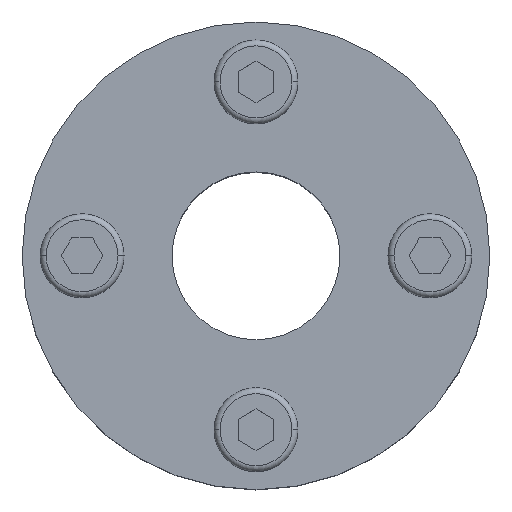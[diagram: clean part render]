
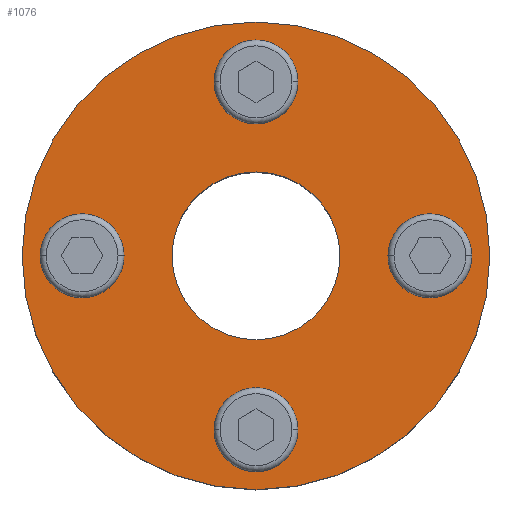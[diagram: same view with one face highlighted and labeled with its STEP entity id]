
A CAD part, top view. The second image highlights one B-rep face of the part: STEP entity #1076.
In plain terms, the highlighted planar face has unit normal (0, 0, 1).
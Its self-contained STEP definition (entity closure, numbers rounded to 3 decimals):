
#37 = FACE_BOUND ( 'NONE', #364, .T. ) ;
#40 = CARTESIAN_POINT ( 'NONE',  ( 0., 14.5, 0. ) ) ;
#92 = EDGE_LOOP ( 'NONE', ( #1160, #417 ) ) ;
#101 = CARTESIAN_POINT ( 'NONE',  ( -7., 0., 0. ) ) ;
#104 = DIRECTION ( 'NONE',  ( 0., 0., 1. ) ) ;
#126 = EDGE_LOOP ( 'NONE', ( #934, #1118 ) ) ;
#131 = EDGE_CURVE ( 'NONE', #759, #150, #1322, .T. ) ;
#140 = AXIS2_PLACEMENT_3D ( 'NONE', #1528, #340, #1248 ) ;
#143 = CARTESIAN_POINT ( 'NONE',  ( 14.5, 0., 0. ) ) ;
#150 = VERTEX_POINT ( 'NONE', #431 ) ;
#210 = CARTESIAN_POINT ( 'NONE',  ( 0., 0., 0. ) ) ;
#227 = EDGE_CURVE ( 'NONE', #788, #1362, #619, .T. ) ;
#254 = VERTEX_POINT ( 'NONE', #1378 ) ;
#303 = EDGE_CURVE ( 'NONE', #1422, #254, #456, .T. ) ;
#317 = DIRECTION ( 'NONE',  ( 0., 0., 1. ) ) ;
#323 = EDGE_CURVE ( 'NONE', #881, #728, #628, .T. ) ;
#340 = DIRECTION ( 'NONE',  ( 0., 0., 1. ) ) ;
#361 = AXIS2_PLACEMENT_3D ( 'NONE', #1463, #1317, #952 ) ;
#364 = EDGE_LOOP ( 'NONE', ( #1662, #1446 ) ) ;
#369 = DIRECTION ( 'NONE',  ( 0., 0., 1. ) ) ;
#401 = AXIS2_PLACEMENT_3D ( 'NONE', #1530, #104, #891 ) ;
#413 = FACE_BOUND ( 'NONE', #451, .T. ) ;
#417 = ORIENTED_EDGE ( 'NONE', *, *, #918, .T. ) ;
#425 = CARTESIAN_POINT ( 'NONE',  ( -18., 0., 0. ) ) ;
#430 = CARTESIAN_POINT ( 'NONE',  ( 0., 0., 0. ) ) ;
#431 = CARTESIAN_POINT ( 'NONE',  ( -3.5, -14.5, 0. ) ) ;
#451 = EDGE_LOOP ( 'NONE', ( #705, #656 ) ) ;
#454 = ORIENTED_EDGE ( 'NONE', *, *, #131, .F. ) ;
#456 = CIRCLE ( 'NONE', #1054, 3.5 ) ;
#459 = EDGE_CURVE ( 'NONE', #728, #881, #763, .T. ) ;
#461 = ORIENTED_EDGE ( 'NONE', *, *, #1547, .F. ) ;
#487 = AXIS2_PLACEMENT_3D ( 'NONE', #570, #1483, #1349 ) ;
#488 = EDGE_CURVE ( 'NONE', #1108, #1374, #824, .T. ) ;
#490 = CARTESIAN_POINT ( 'NONE',  ( -7., 0., 0. ) ) ;
#497 = CIRCLE ( 'NONE', #1186, 19.5 ) ;
#532 = CARTESIAN_POINT ( 'NONE',  ( -14.5, 0., 0. ) ) ;
#543 = PLANE ( 'NONE',  #1035 ) ;
#550 = CARTESIAN_POINT ( 'NONE',  ( 7., 0., 0. ) ) ;
#556 = VERTEX_POINT ( 'NONE', #1421 ) ;
#570 = CARTESIAN_POINT ( 'NONE',  ( 0., -14.5, 0. ) ) ;
#606 = EDGE_CURVE ( 'NONE', #1374, #1108, #1129, .T. ) ;
#619 = CIRCLE ( 'NONE', #1391, 7. ) ;
#628 = CIRCLE ( 'NONE', #872, 3.5 ) ;
#636 = FACE_OUTER_BOUND ( 'NONE', #92, .T. ) ;
#637 = AXIS2_PLACEMENT_3D ( 'NONE', #779, #1416, #1042 ) ;
#644 = DIRECTION ( 'NONE',  ( 0., 0., 1. ) ) ;
#656 = ORIENTED_EDGE ( 'NONE', *, *, #323, .F. ) ;
#661 = DIRECTION ( 'NONE',  ( 0., 0., -1. ) ) ;
#663 = ORIENTED_EDGE ( 'NONE', *, *, #1313, .F. ) ;
#699 = CIRCLE ( 'NONE', #888, 7. ) ;
#705 = ORIENTED_EDGE ( 'NONE', *, *, #459, .F. ) ;
#715 = DIRECTION ( 'NONE',  ( 0., 0., 1. ) ) ;
#728 = VERTEX_POINT ( 'NONE', #1339 ) ;
#732 = AXIS2_PLACEMENT_3D ( 'NONE', #143, #1064, #1292 ) ;
#759 = VERTEX_POINT ( 'NONE', #962 ) ;
#763 = CIRCLE ( 'NONE', #401, 3.5 ) ;
#777 = CARTESIAN_POINT ( 'NONE',  ( 14.5, 0., 0. ) ) ;
#779 = CARTESIAN_POINT ( 'NONE',  ( 0., -14.5, 0. ) ) ;
#788 = VERTEX_POINT ( 'NONE', #490 ) ;
#804 = FACE_BOUND ( 'NONE', #126, .T. ) ;
#812 = EDGE_CURVE ( 'NONE', #1080, #556, #1234, .T. ) ;
#814 = DIRECTION ( 'NONE',  ( -1., 0., 0. ) ) ;
#824 = CIRCLE ( 'NONE', #1565, 3.5 ) ;
#872 = AXIS2_PLACEMENT_3D ( 'NONE', #40, #1488, #814 ) ;
#881 = VERTEX_POINT ( 'NONE', #1158 ) ;
#888 = AXIS2_PLACEMENT_3D ( 'NONE', #430, #715, #1337 ) ;
#891 = DIRECTION ( 'NONE',  ( -1., 0., 0. ) ) ;
#918 = EDGE_CURVE ( 'NONE', #556, #1080, #497, .T. ) ;
#934 = ORIENTED_EDGE ( 'NONE', *, *, #303, .F. ) ;
#952 = DIRECTION ( 'NONE',  ( -1., 0., 0. ) ) ;
#962 = CARTESIAN_POINT ( 'NONE',  ( 3.5, -14.5, 0. ) ) ;
#990 = FACE_BOUND ( 'NONE', #1301, .T. ) ;
#1027 = FACE_BOUND ( 'NONE', #1431, .T. ) ;
#1035 = AXIS2_PLACEMENT_3D ( 'NONE', #101, #661, #1163 ) ;
#1042 = DIRECTION ( 'NONE',  ( -1., 0., 0. ) ) ;
#1054 = AXIS2_PLACEMENT_3D ( 'NONE', #532, #369, #1453 ) ;
#1064 = DIRECTION ( 'NONE',  ( 0., 0., 1. ) ) ;
#1076 = ADVANCED_FACE ( 'NONE', ( #413, #37, #1027, #804, #990, #636 ), #543, .F. ) ;
#1080 = VERTEX_POINT ( 'NONE', #1629 ) ;
#1108 = VERTEX_POINT ( 'NONE', #1525 ) ;
#1118 = ORIENTED_EDGE ( 'NONE', *, *, #1460, .F. ) ;
#1129 = CIRCLE ( 'NONE', #732, 3.5 ) ;
#1146 = CARTESIAN_POINT ( 'NONE',  ( 0., 0., 0. ) ) ;
#1155 = DIRECTION ( 'NONE',  ( -1., 0., 0. ) ) ;
#1158 = CARTESIAN_POINT ( 'NONE',  ( 3.5, 14.5, 0. ) ) ;
#1160 = ORIENTED_EDGE ( 'NONE', *, *, #812, .T. ) ;
#1163 = DIRECTION ( 'NONE',  ( -1., 0., 0. ) ) ;
#1172 = DIRECTION ( 'NONE',  ( 0., 0., 1. ) ) ;
#1186 = AXIS2_PLACEMENT_3D ( 'NONE', #1146, #1172, #1408 ) ;
#1234 = CIRCLE ( 'NONE', #140, 19.5 ) ;
#1248 = DIRECTION ( 'NONE',  ( 1., 0., 0. ) ) ;
#1292 = DIRECTION ( 'NONE',  ( -1., 0., 0. ) ) ;
#1301 = EDGE_LOOP ( 'NONE', ( #461, #1615 ) ) ;
#1313 = EDGE_CURVE ( 'NONE', #150, #759, #1329, .T. ) ;
#1317 = DIRECTION ( 'NONE',  ( 0., 0., 1. ) ) ;
#1322 = CIRCLE ( 'NONE', #487, 3.5 ) ;
#1329 = CIRCLE ( 'NONE', #637, 3.5 ) ;
#1337 = DIRECTION ( 'NONE',  ( 1., 0., 0. ) ) ;
#1339 = CARTESIAN_POINT ( 'NONE',  ( -3.5, 14.5, 0. ) ) ;
#1349 = DIRECTION ( 'NONE',  ( -1., 0., 0. ) ) ;
#1362 = VERTEX_POINT ( 'NONE', #550 ) ;
#1374 = VERTEX_POINT ( 'NONE', #1573 ) ;
#1378 = CARTESIAN_POINT ( 'NONE',  ( -11., 0., 0. ) ) ;
#1391 = AXIS2_PLACEMENT_3D ( 'NONE', #210, #317, #1643 ) ;
#1408 = DIRECTION ( 'NONE',  ( 1., 0., 0. ) ) ;
#1416 = DIRECTION ( 'NONE',  ( 0., 0., 1. ) ) ;
#1421 = CARTESIAN_POINT ( 'NONE',  ( -19.5, 0., 0. ) ) ;
#1422 = VERTEX_POINT ( 'NONE', #425 ) ;
#1431 = EDGE_LOOP ( 'NONE', ( #663, #454 ) ) ;
#1446 = ORIENTED_EDGE ( 'NONE', *, *, #488, .F. ) ;
#1450 = CIRCLE ( 'NONE', #361, 3.5 ) ;
#1453 = DIRECTION ( 'NONE',  ( -1., 0., 0. ) ) ;
#1460 = EDGE_CURVE ( 'NONE', #254, #1422, #1450, .T. ) ;
#1463 = CARTESIAN_POINT ( 'NONE',  ( -14.5, 0., 0. ) ) ;
#1483 = DIRECTION ( 'NONE',  ( 0., 0., 1. ) ) ;
#1488 = DIRECTION ( 'NONE',  ( 0., 0., 1. ) ) ;
#1525 = CARTESIAN_POINT ( 'NONE',  ( 18., 0., 0. ) ) ;
#1528 = CARTESIAN_POINT ( 'NONE',  ( 0., 0., 0. ) ) ;
#1530 = CARTESIAN_POINT ( 'NONE',  ( 0., 14.5, 0. ) ) ;
#1547 = EDGE_CURVE ( 'NONE', #1362, #788, #699, .T. ) ;
#1565 = AXIS2_PLACEMENT_3D ( 'NONE', #777, #644, #1155 ) ;
#1573 = CARTESIAN_POINT ( 'NONE',  ( 11., 0., 0. ) ) ;
#1615 = ORIENTED_EDGE ( 'NONE', *, *, #227, .F. ) ;
#1629 = CARTESIAN_POINT ( 'NONE',  ( 19.5, 0., 0. ) ) ;
#1643 = DIRECTION ( 'NONE',  ( 1., 0., 0. ) ) ;
#1662 = ORIENTED_EDGE ( 'NONE', *, *, #606, .F. ) ;
